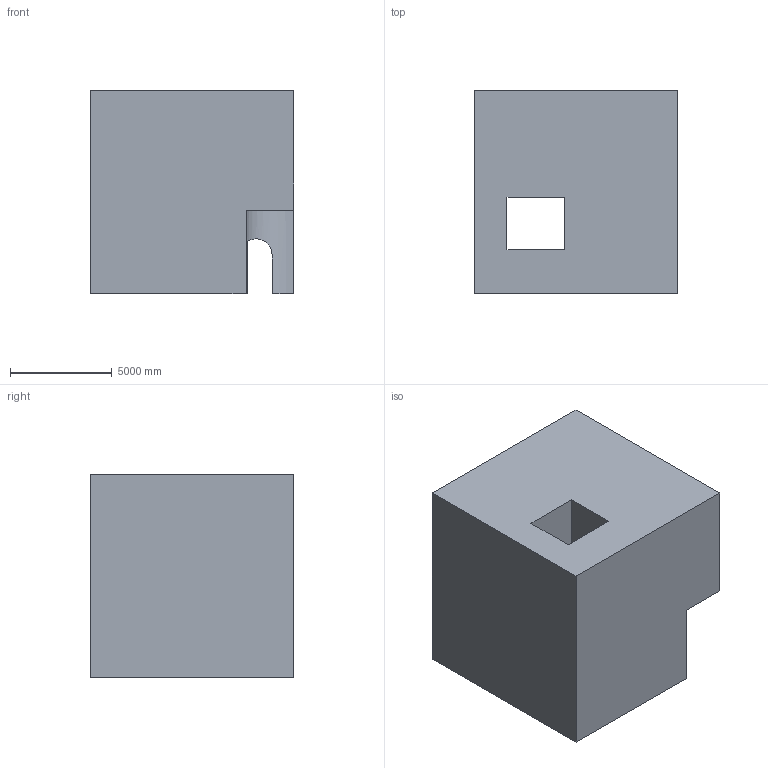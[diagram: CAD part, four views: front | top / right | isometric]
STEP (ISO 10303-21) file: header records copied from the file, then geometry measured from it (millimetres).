
FILE_DESCRIPTION (( 'STEP AP203' ), '1' );
FILE_NAME ('42.STEP', '2022-08-30T14:09:13', ( 'user' ), ( '' ), 'SwSTEP 2.0', 'SolidWorks 2021', '' );
FILE_SCHEMA (( 'CONFIG_CONTROL_DESIGN' ));
Length unit declared in the file: centimetre
Products named in the file (1): 42
Bounding box: 10000 x 10000 x 10000 mm (x, y, z)
Volume: 854864657887.7 mm3; surface area: 786055517.2 mm2
Topology: 1 solids, 1 shells, 27 faces, 75 edges, 50 vertices
Faces by surface type: plane 24, cylinder 3
Entity records: 1028 total; most frequent: CARTESIAN_POINT 245, ORIENTED_EDGE 150, DIRECTION 135, EDGE_CURVE 75, VECTOR 67, LINE 67, VERTEX_POINT 50, AXIS2_PLACEMENT_3D 34
